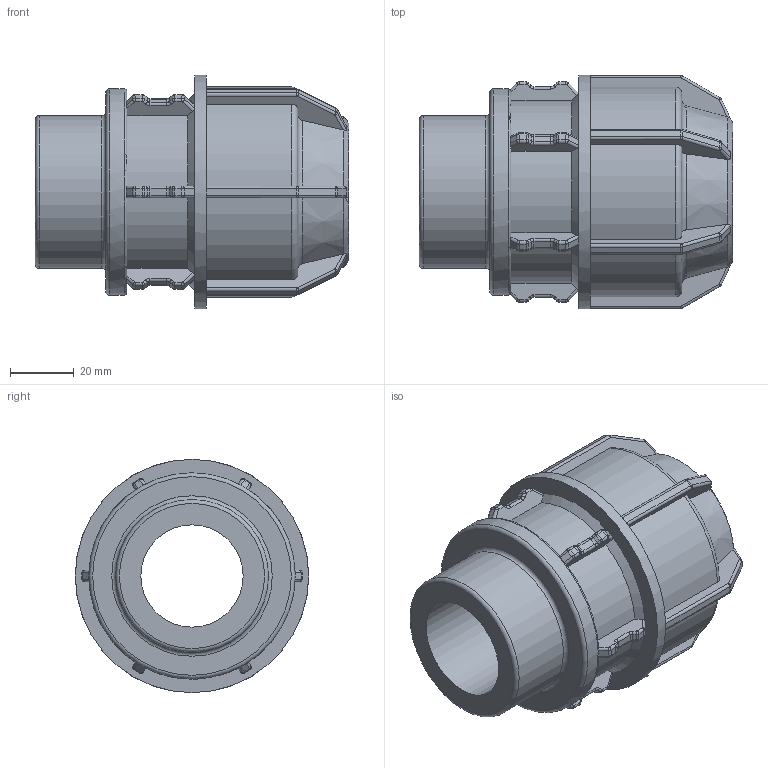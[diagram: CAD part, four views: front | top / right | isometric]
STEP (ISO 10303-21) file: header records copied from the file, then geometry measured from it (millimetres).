
FILE_DESCRIPTION(/* description */ ('PLASSON L.14 MALE ADAPTOR (SILVER) 40-1.1/2'''''),/* implementation_level */ '2;1');
FILE_NAME(/* name */ 'C:\Dropbox\KIMPROJECTS-Inventor\99-16-3568-Processing\Silver+MF ISRAEL\140200\140200040015.ipt.stp',/* time_stamp */ '2018-04-09T13:02:48+03:00',/* author */ ('KIM'),/* organization */ (''),/* preprocessor_version */ 'ST-DEVELOPER v15.6',/* originating_system */ 'Autodesk Inventor 2015',/* authorisation */ '');
FILE_SCHEMA (('AUTOMOTIVE_DESIGN { 1 0 10303 214 3 1 1 }'));
Length unit declared in the file: millimetre
Products named in the file (1): 140200040015
Bounding box: 98 x 73 x 73 mm (x, y, z)
Volume: 154593.8 mm3; surface area: 39643 mm2
Topology: 1 solids, 1 shells, 471 faces, 1158 edges, 687 vertices
Faces by surface type: cylinder 186, plane 158, bspline 72, torus 42, cone 13
Full cylindrical faces by diameter (mm): 32 x1, 40 x2, 47.803 x1, 64.534 x1, 73 x1
Entity records: 14502 total; most frequent: CARTESIAN_POINT 3786, DIRECTION 2310, ORIENTED_EDGE 2252, EDGE_CURVE 1126, AXIS2_PLACEMENT_3D 930, VERTEX_POINT 676, CIRCLE 508, EDGE_LOOP 488
